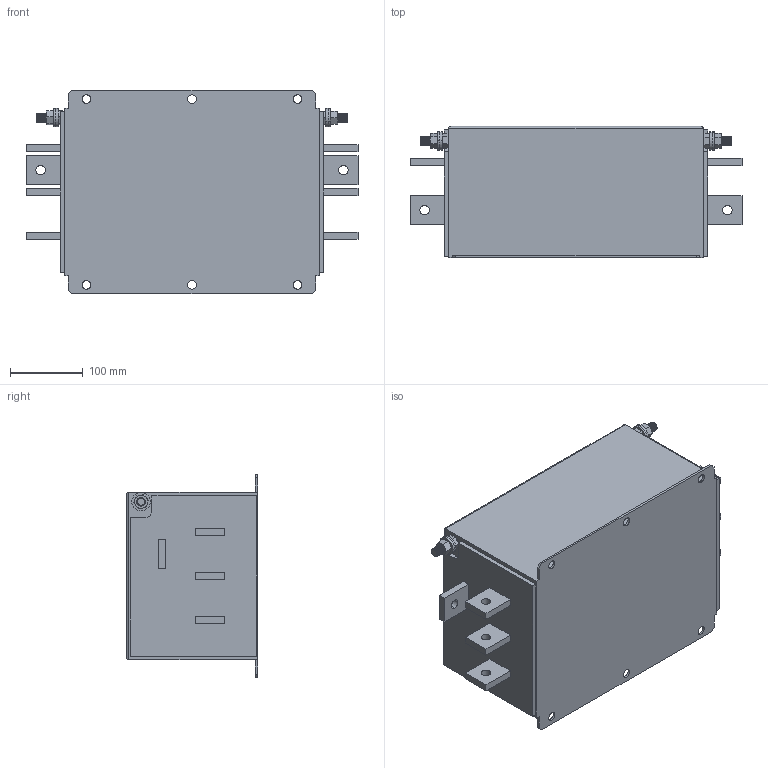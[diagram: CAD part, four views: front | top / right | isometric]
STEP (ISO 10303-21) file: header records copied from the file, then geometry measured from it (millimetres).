
FILE_DESCRIPTION (( 'STEP AP203' ), '1' );
FILE_NAME ('NF-4-1000.STEP', '2020-02-17T12:23:30', ( '' ), ( '' ), 'SwSTEP 2.0', 'SolidWorks 2017', '' );
FILE_SCHEMA (( 'CONFIG_CONTROL_DESIGN' ));
Length unit declared in the file: millimetre
Products named in the file (6): NF-4-1000; flat washer narrow_am_B18.22M - Plain washer, 12 mm, narrow; M12x30 Earth post; hex screw_am_B18.6.7M - M12 x 1.75 x 30 Indented HHMS --30S; hex nut style 1_am_B18.2.4.1M - Hex nut, Style 1,  M12 x 1.75 --D-N
Assembly tree (7 placements, depth 3):
  NF-4-1000
    NF-4-1000
    M12x30 Earth post  x2
      flat washer narrow_am_B18.22M - Plain washer, 12 mm, narrow
      hex nut style 1_am_B18.2.4.1M - Hex nut, Style 1,  M12 x 1.75 --D-N
      hex screw_am_B18.6.7M - M12 x 1.75 x 30 Indented HHMS --30S
Bounding box: 456 x 180 x 280 mm (x, y, z)
Volume: 15101090.2 mm3; surface area: 476031.3 mm2
Topology: 9 solids, 9 shells, 436 faces, 1092 edges, 688 vertices
Faces by surface type: cone 184, cylinder 136, plane 116
Entity records: 8946 total; most frequent: CARTESIAN_POINT 1599, DIRECTION 1472, ORIENTED_EDGE 1352, EDGE_CURVE 676, AXIS2_PLACEMENT_3D 559, VERTEX_POINT 430, VECTOR 354, LINE 354
